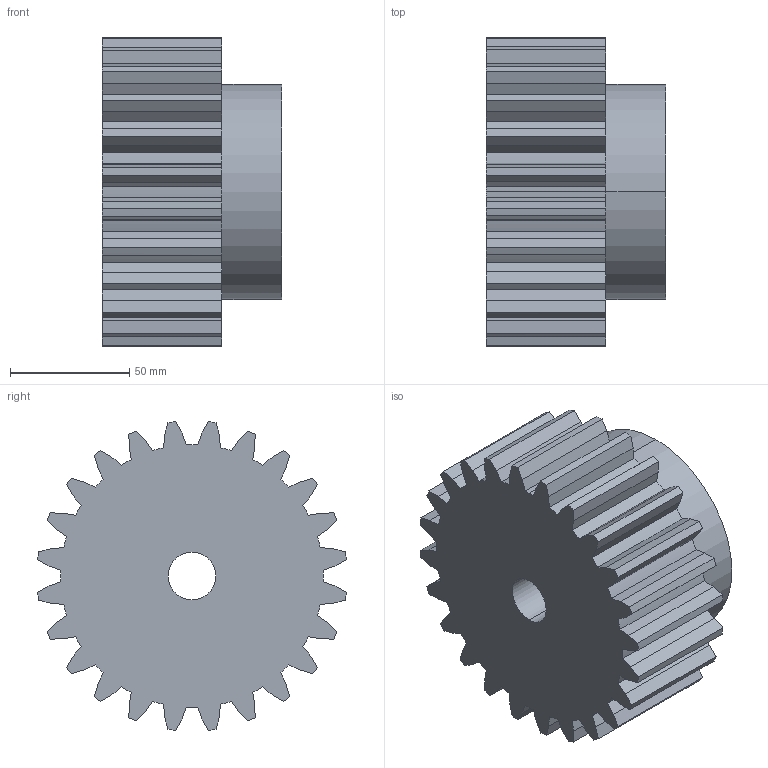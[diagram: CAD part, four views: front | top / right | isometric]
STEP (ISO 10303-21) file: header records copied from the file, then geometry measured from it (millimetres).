
FILE_DESCRIPTION (( 'STEP AP203' ), '1' );
FILE_NAME ('PM 32024.STEP', '2013-09-26T07:45:11', ( '' ), ( '' ), 'SwSTEP 2.0', 'SolidWorks 2010', '' );
FILE_SCHEMA (( 'CONFIG_CONTROL_DESIGN' ));
Length unit declared in the file: millimetre
Products named in the file (1): PM 32024
Bounding box: 75 x 129.28 x 129.28 mm (x, y, z)
Volume: 693389 mm3; surface area: 68883.4 mm2
Topology: 1 solids, 1 shells, 152 faces, 447 edges, 298 vertices
Faces by surface type: plane 99, cylinder 53
Entity records: 5234 total; most frequent: CARTESIAN_POINT 1255, ORIENTED_EDGE 894, DIRECTION 717, EDGE_CURVE 447, VERTEX_POINT 298, VECTOR 245, LINE 245, AXIS2_PLACEMENT_3D 236
